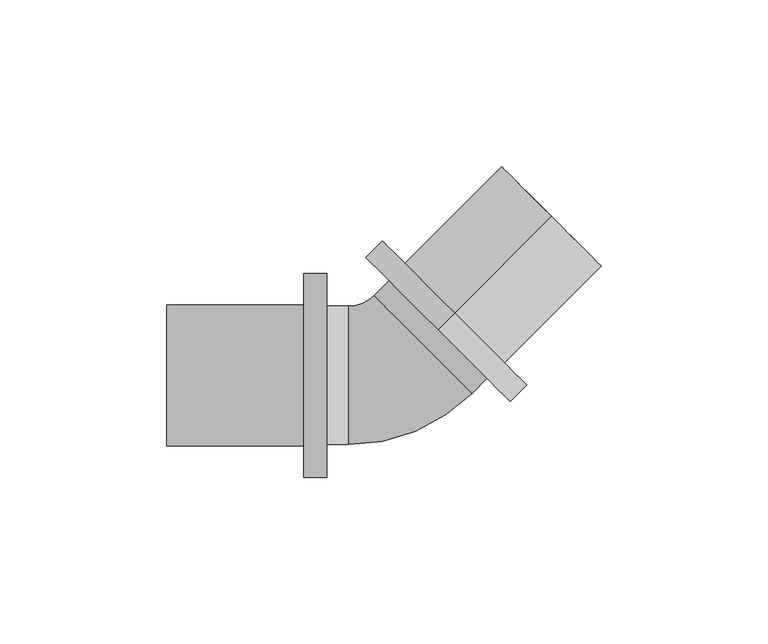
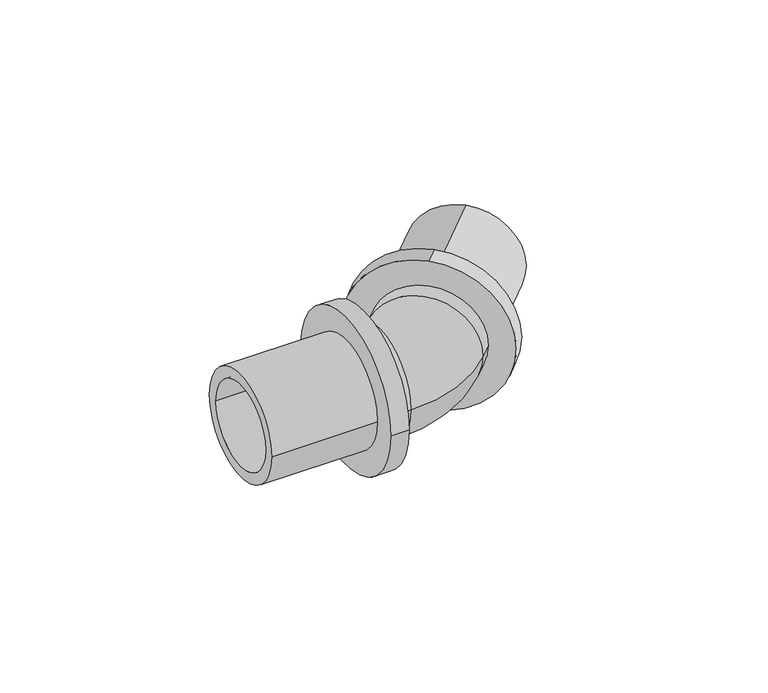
"""IFC4 building model written with IfcOpenShell, lengths in millimetres: pipe fitting geometry, RAUTITAN_Corner_RX+ stabil : RTI RX+ stabil C DE."""

import ifcopenshell
import ifcopenshell.guid

model = None  # the IFC model being written
_history = None  # IfcOwnerHistory: only IFC2X3 demands one
_inside = {}  # id of a spatial element -> (the spatial element, [elements in it])
_under = {}  # id of a project, library or spatial element -> (it, [spatial elements below it])
_declared = {}  # id of a project -> (the project, [libraries it declares])
_typed = {}  # id of a type object -> (the type object, [elements of that type])
_made_of = {}  # id of a material, layer set ... -> (it, [elements and type objects made of it])


def new_model(schema):
    """Start an empty IFC model of exactly this schema.

    Asked for "IFC4X3", IfcOpenShell would pick the latest addendum, in which some entities
    have other attributes; the version numbers below select the first issue.
    IFC2X3 requires an IfcOwnerHistory on every rooted entity: one is made here for all.
    """
    global model, _history
    if schema == "IFC4X3":
        model = ifcopenshell.file(schema_version=(4, 3, 0, 0))
    else:
        model = ifcopenshell.file(schema=schema)
    _inside.clear()
    _under.clear()
    _declared.clear()
    _typed.clear()
    _made_of.clear()
    _history = None
    if model.schema == "IFC2X3":
        org = make("IfcOrganization", Name="unknown")
        user = make(
            "IfcPersonAndOrganization",
            ThePerson=make("IfcPerson", FamilyName="unknown"),
            TheOrganization=org,
        )
        app = make(
            "IfcApplication",
            ApplicationDeveloper=org,
            Version="unknown",
            ApplicationFullName="unknown",
            ApplicationIdentifier="unknown",
        )
        _history = make(
            "IfcOwnerHistory",
            OwningUser=user,
            OwningApplication=app,
            ChangeAction="ADDED",
            CreationDate=0,
        )
    return model


def make(cls, **values):
    """One entity of the class cls with the attributes given. An attribute that is None is left unset."""
    return model.create_entity(
        cls, **{name: value for name, value in values.items() if value is not None}
    )


def rooted(cls, **values):
    """An entity with a GlobalId (a new one), such as an element, a storey or a relation."""
    return make(cls, GlobalId=ifcopenshell.guid.new(), OwnerHistory=_history, **values)


def si_unit(unit_type, name, prefix=None):
    """IfcSIUnit, for example si_unit("LENGTHUNIT", "METRE", prefix="MILLI")."""
    return make("IfcSIUnit", UnitType=unit_type, Prefix=prefix, Name=name)


def assignment(units):
    """IfcUnitAssignment: the units of a project."""
    return None if units is None else make("IfcUnitAssignment", Units=units)


def point(xyz):
    """IfcCartesianPoint."""
    return None if xyz is None else make("IfcCartesianPoint", Coordinates=xyz)


def direction(xyz):
    """IfcDirection."""
    return None if xyz is None else make("IfcDirection", DirectionRatios=xyz)


def frame(location, z_axis=None, x_axis=None):
    """IfcAxis2Placement3D, a coordinate frame: its origin and axes. An axis left out is left unset."""
    return make(
        "IfcAxis2Placement3D",
        Location=point(location),
        Axis=direction(z_axis),
        RefDirection=direction(x_axis),
    )


def origin():
    """The frame at (0, 0, 0) with its axes left unset."""
    return frame((0.0, 0.0, 0.0))


def place(relative_to, where):
    """IfcLocalPlacement: puts the frame where relative to a parent placement (None: the world)."""
    return make(
        "IfcLocalPlacement", PlacementRelTo=relative_to, RelativePlacement=where
    )


def context(
    kind, dimensions, precision=None, world=None, true_north=None, identifier=None
):
    """IfcGeometricRepresentationContext, for example the 3D "Model" context."""
    return make(
        "IfcGeometricRepresentationContext",
        ContextIdentifier=identifier,
        ContextType=kind,
        CoordinateSpaceDimension=dimensions,
        Precision=precision,
        WorldCoordinateSystem=world,
        TrueNorth=true_north,
    )


def project(units=None, contexts=None):
    """IfcProject with its units and contexts."""
    return rooted(
        "IfcProject",
        Name="project",
        RepresentationContexts=contexts,
        UnitsInContext=assignment(units),
    )


def spatial(cls, under=None, at=None, **own):
    """A site, building, storey or space (cls), placed at a placement, below another one or the project."""
    s = rooted(cls, ObjectPlacement=at, **own)
    if under is not None:
        _under.setdefault(under.id(), (under, []))[1].append(s)
    return s


def polyline(points):
    """IfcPolyline through the points."""
    return make("IfcPolyline", Points=[point(p) for p in points])


def circle_curve(where, radius):
    """IfcCircle in the frame where."""
    return make("IfcCircle", Position=where, Radius=radius)


def ellipse_curve(where, semi_axis1, semi_axis2):
    """IfcEllipse in the frame where."""
    return make(
        "IfcEllipse", Position=where, SemiAxis1=semi_axis1, SemiAxis2=semi_axis2
    )


def trimmed(basis, trim1, trim2, sense, master):
    """IfcTrimmedCurve: the piece of a basis curve between two trims."""
    return make(
        "IfcTrimmedCurve",
        BasisCurve=basis,
        Trim1=trim1,
        Trim2=trim2,
        SenseAgreement=sense,
        MasterRepresentation=master,
    )


def shape(context_of_items, identifier, shape_type, items):
    """IfcShapeRepresentation: the items that make up one representation, for example the "Body"."""
    return make(
        "IfcShapeRepresentation",
        ContextOfItems=context_of_items,
        RepresentationIdentifier=identifier,
        RepresentationType=shape_type,
        Items=items,
    )


def source(mapping_origin, context_of_items, identifier, shape_type, items):
    """IfcRepresentationMap: a shape defined once, which mapped items show again and again."""
    return make(
        "IfcRepresentationMap",
        MappingOrigin=mapping_origin,
        MappedRepresentation=shape(context_of_items, identifier, shape_type, items),
    )


def transform(
    local_origin,
    x_axis=None,
    y_axis=None,
    z_axis=None,
    scale=None,
    scale2=None,
    scale3=None,
    uniform=True,
):
    """IfcCartesianTransformationOperator3D, or its non-uniform kind. x_axis, y_axis, z_axis: its Axis1, 2, 3."""
    if uniform:
        return make(
            "IfcCartesianTransformationOperator3D",
            Axis1=direction(x_axis),
            Axis2=direction(y_axis),
            LocalOrigin=point(local_origin),
            Scale=scale,
            Axis3=direction(z_axis),
        )
    return make(
        "IfcCartesianTransformationOperator3DnonUniform",
        Axis1=direction(x_axis),
        Axis2=direction(y_axis),
        LocalOrigin=point(local_origin),
        Scale=scale,
        Axis3=direction(z_axis),
        Scale2=scale2,
        Scale3=scale3,
    )


def mapped(mapping_source, mapping_target):
    """IfcMappedItem: shows the shape of a source again, moved by a transform."""
    return make(
        "IfcMappedItem", MappingSource=mapping_source, MappingTarget=mapping_target
    )


def made_of(thing, what):
    """Note that an element or type object is made of a material, layer set ...; save() writes the relation."""
    if what is not None:
        _made_of.setdefault(what.id(), (what, []))[1].append(thing)
    return thing


def element(
    cls,
    number,
    at=None,
    inside=None,
    cuts=None,
    type_object=None,
    material=None,
    context=None,
    identifier="Body",
    shape_type=None,
    held_by="IfcProductDefinitionShape",
    body=None,
    shapes=None,
    **own,
):
    """One element of the class cls, such as IfcWall. Its Tag is "e" and its number.

    at: its placement. inside: the storey or other place that contains it. cuts: it is an
    opening in that element (IfcRelVoidsElement). A single representation is given by context,
    identifier, shape_type and body (its items); several are given by shapes. held_by: the class
    of the entity that holds the representations. save() writes the other relations.
    """
    e = rooted(cls, Tag="e%d" % number, ObjectPlacement=at, **own)
    if body is not None:
        shapes = [shape(context, identifier, shape_type, body)]
    if shapes is not None:
        e.Representation = make(held_by, Representations=shapes)
    if inside is not None:
        _inside.setdefault(inside.id(), (inside, []))[1].append(e)
    if cuts is not None:
        rooted(
            "IfcRelVoidsElement", RelatingBuildingElement=cuts, RelatedOpeningElement=e
        )
    if type_object is not None:
        _typed.setdefault(type_object.id(), (type_object, []))[1].append(e)
    return made_of(e, material)


def aggregate(whole, parts):
    """IfcRelAggregates: a whole, such as a stair, and the parts it consists of."""
    return rooted("IfcRelAggregates", RelatingObject=whole, RelatedObjects=parts)


def save(model, path):
    """Write the relations noted so far, then the file.

    IfcRelAggregates (storeys below a building ...), IfcRelContainedInSpatialStructure (elements
    in a storey), IfcRelDefinesByType, IfcRelAssociatesMaterial and IfcRelDeclares: one each for
    every whole, place, type object, material and project.
    """
    for whole, parts in _under.values():
        aggregate(whole, parts)
    for where, things in _inside.values():
        rooted(
            "IfcRelContainedInSpatialStructure",
            RelatedElements=things,
            RelatingStructure=where,
        )
    for kind, things in _typed.values():
        rooted("IfcRelDefinesByType", RelatedObjects=things, RelatingType=kind)
    for what, things in _made_of.values():
        rooted("IfcRelAssociatesMaterial", RelatedObjects=things, RelatingMaterial=what)
    for by, libraries in _declared.values():
        rooted("IfcRelDeclares", RelatingContext=by, RelatedDefinitions=libraries)
    model.write(path)


def plane_surface(at):
    """IfcPlane: the flat surface through the origin of the frame at, square to its z axis."""
    return make("IfcPlane", Position=at)


def cylinder_surface(at, radius):
    """IfcCylindricalSurface: all points at the distance radius from the z axis of the frame at."""
    return make("IfcCylindricalSurface", Position=at, Radius=radius)


def revolved_surface(curve, axis_point, axis_direction):
    """IfcSurfaceOfRevolution: the curve turned about the line through axis_point along axis_direction."""
    return make(
        "IfcSurfaceOfRevolution",
        SweptCurve=make("IfcArbitraryOpenProfileDef", ProfileType="CURVE", Curve=curve),
        AxisPosition=make("IfcAxis1Placement", Location=point(axis_point), Axis=direction(axis_direction)),
    )


def advanced_brep(points, edges, surfaces, faces):
    """IfcAdvancedBrep: a solid bounded by faces that lie on surfaces and meet in shared edges.

    An edge is (start, end): straight between two places in points (the first is 0);
    or (start, end, curve); or (start, end, curve, False) where it runs against its curve.
    A face is (place in surfaces, loops), or (place, loops, False) where it looks against
    its surface's normal. A loop lists edges by number (the first is 1), with a minus sign
    where the edge is run from its end to its start. The first loop is the outer one.
    """
    corners = [point(p) for p in points]
    vertices = [make("IfcVertexPoint", VertexGeometry=c) for c in corners]
    made = []
    for start, end, *more in edges:
        made.append(
            make(
                "IfcEdgeCurve",
                EdgeStart=vertices[start],
                EdgeEnd=vertices[end],
                EdgeGeometry=more[0] if more else make("IfcPolyline", Points=[corners[start], corners[end]]),
                SameSense=more[1] if len(more) > 1 else True,
            )
        )
    hull = []
    for where, loops, *sense in faces:
        bounds = []
        for j, loop in enumerate(loops):
            ring = [make("IfcOrientedEdge", EdgeElement=made[abs(k) - 1], Orientation=k > 0) for k in loop]
            bounds.append(
                make(
                    "IfcFaceOuterBound" if j == 0 else "IfcFaceBound",
                    Bound=make("IfcEdgeLoop", EdgeList=ring),
                    Orientation=True,
                )
            )
        hull.append(make("IfcAdvancedFace", Bounds=bounds, FaceSurface=surfaces[where], SameSense=sense[0] if sense else True))
    return make("IfcAdvancedBrep", Outer=make("IfcClosedShell", CfsFaces=hull))


def pipe_fitting_43d15cd9(model_context):
    return source(origin(), model_context, "Body", "AdvancedBrep", [
        advanced_brep(
        [(-19.5, 20.75, 0.0), (-19.5, -20.75, 0.0), (-19.5, 16.75, 0.0), (-19.5, -16.75, 0.0), (-13.1512806, -16.75, 0.0), (-13.1512806, 16.75, 0.0), (-13.1512806, -20.75, 0.0), (-13.1512806, 20.75, 0.0), (28.4610479, -0.8838835, 0.0), (-0.8838835, 28.4610479, 0.0), (25.6326208, 1.9445436, 0.0), (1.9445436, 25.6326208, 0.0), (-2.5446789, 21.1433983, 0.0), (21.1433983, -2.5446789, 0.0), (-5.373106, 23.9718254, 0.0), (23.9718254, -5.373106, 0.0)],
        [
            (0, 1, circle_curve(frame((-19.5, 0.0, 0.0), z_axis=(-1.0, 0.0, 0.0), x_axis=(0.0, -1.0, 0.0)), 20.75)),
            (1, 0, circle_curve(frame((-19.5, 0.0, 0.0), z_axis=(-1.0, 0.0, 0.0), x_axis=(0.0, -1.0, 0.0)), 20.75)),
            (2, 3, circle_curve(frame((-19.5, 0.0, 0.0), z_axis=(1.0, 0.0, 0.0), x_axis=(0.0, -1.0, 0.0)), 16.75)),
            (3, 2, circle_curve(frame((-19.5, 0.0, 0.0), z_axis=(1.0, 0.0, 0.0), x_axis=(0.0, -1.0, 0.0)), 16.75)),
            (3, 4),
            (4, 5, circle_curve(frame((-13.1512806, 0.0, 0.0), z_axis=(1.0, 0.0, 0.0), x_axis=(0.0, -1.0, 0.0)), 16.75)),
            (5, 2),
            (5, 4, circle_curve(frame((-13.1512806, 0.0, 0.0), z_axis=(1.0, 0.0, 0.0), x_axis=(0.0, -1.0, 0.0)), 16.75)),
            (1, 6),
            (6, 7, circle_curve(frame((-13.1512806, 0.0, 0.0), z_axis=(-1.0, 0.0, 0.0), x_axis=(0.0, -1.0, 0.0)), 20.75)),
            (7, 0),
            (7, 6, circle_curve(frame((-13.1512806, 0.0, 0.0), z_axis=(-1.0, 0.0, 0.0), x_axis=(0.0, -1.0, 0.0)), 20.75)),
            (8, 9, circle_curve(frame((13.7885822, 13.7885822, 0.0), z_axis=(0.7071067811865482, 0.7071067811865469, 0.0), x_axis=(-0.7071067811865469, 0.7071067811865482, 0.0)), 20.75)),
            (9, 8, circle_curve(frame((13.7885822, 13.7885822, 0.0), z_axis=(0.7071067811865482, 0.7071067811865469, 0.0), x_axis=(-0.7071067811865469, 0.7071067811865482, 0.0)), 20.75)),
            (10, 11, circle_curve(frame((13.7885822, 13.7885822, 0.0), z_axis=(-0.7071067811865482, -0.7071067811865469, 0.0), x_axis=(-0.7071067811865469, 0.7071067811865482, 0.0)), 16.75)),
            (11, 10, circle_curve(frame((13.7885822, 13.7885822, 0.0), z_axis=(-0.7071067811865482, -0.7071067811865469, 0.0), x_axis=(-0.7071067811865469, 0.7071067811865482, 0.0)), 16.75)),
            (11, 12),
            (12, 13, circle_curve(frame((9.2993597, 9.2993597, 0.0), z_axis=(-0.7071067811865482, -0.7071067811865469, 0.0), x_axis=(-0.7071067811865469, 0.7071067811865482, 0.0)), 16.75)),
            (13, 10),
            (13, 12, circle_curve(frame((9.2993597, 9.2993597, 0.0), z_axis=(-0.7071067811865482, -0.7071067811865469, 0.0), x_axis=(-0.7071067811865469, 0.7071067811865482, 0.0)), 16.75)),
            (9, 14),
            (14, 15, circle_curve(frame((9.2993597, 9.2993597, 0.0), z_axis=(0.7071067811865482, 0.7071067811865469, 0.0), x_axis=(-0.7071067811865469, 0.7071067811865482, 0.0)), 20.75)),
            (15, 8),
            (15, 14, circle_curve(frame((9.2993597, 9.2993597, 0.0), z_axis=(0.7071067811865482, 0.7071067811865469, 0.0), x_axis=(-0.7071067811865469, 0.7071067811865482, 0.0)), 20.75)),
            (12, 5, circle_curve(frame((-13.1512806, 31.75, 0.0), z_axis=(0.0, 0.0, -1.0), x_axis=(0.0, -1.0, 0.0)), 15.0)),
            (4, 13, circle_curve(frame((-13.1512806, 31.75, 0.0), z_axis=(0.0, 0.0, 1.0), x_axis=(0.0, -1.0, 0.0)), 48.5)),
            (14, 7, circle_curve(frame((-13.1512806, 31.75, 0.0), z_axis=(0.0, 0.0, -1.0), x_axis=(0.0, -1.0, 0.0)), 11.0)),
            (6, 15, circle_curve(frame((-13.1512806, 31.75, 0.0), z_axis=(0.0, 0.0, 1.0), x_axis=(0.0, -1.0, 0.0)), 52.5)),
        ],
        [
            plane_surface(frame((-19.5, 0.0, 0.0), z_axis=(-1.0, 0.0, 0.0), x_axis=(0.0, 0.0, 1.0))),
            revolved_surface(polyline([(-19.5, -16.75, 0.0), (-13.1512806, -16.75, 0.0)]), (-13.1512806, 0.0, 0.0), (-1.0, 0.0, 0.0)),
            cylinder_surface(frame((-13.1512806, 0.0, 0.0), z_axis=(1.0, 0.0, 0.0), x_axis=(0.0, -1.0, 0.0)), 20.75),
            plane_surface(frame((13.7885822, 13.7885822, 0.0), z_axis=(0.7071067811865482, 0.7071067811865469, 0.0), x_axis=(0.0, 0.0, 1.0))),
            revolved_surface(polyline([(1.9445436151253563, 25.632620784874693, 0.0), (-2.544678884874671, 21.143398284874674, 0.0)]), (9.2993597, 9.2993597, 0.0), (0.7071067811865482, 0.7071067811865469, 0.0)),
            cylinder_surface(frame((9.2993597, 9.2993597, 0.0), z_axis=(-0.7071067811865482, -0.7071067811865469, 0.0), x_axis=(-0.7071067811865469, 0.7071067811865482, 0.0)), 20.75),
            revolved_surface(trimmed(ellipse_curve(frame((-13.1512806, 0.0, 0.0), z_axis=(1.0, 0.0, 0.0), x_axis=(0.0, 1.0, 0.0)), 16.75, 16.75), [point((-13.1512806, -16.75, 0.0))], [point((-13.1512806, 16.75, 0.0))], True, "CARTESIAN"), (-13.1512806, 31.75, 0.0), (0.0, 0.0, 1.0)),
            revolved_surface(trimmed(ellipse_curve(frame((-13.1512806, 0.0, 0.0), z_axis=(1.0, 0.0, 0.0), x_axis=(0.0, 1.0, 0.0)), 16.75, 16.75), [point((-13.1512806, 16.75, 0.0))], [point((-13.1512806, -16.75, 0.0))], True, "CARTESIAN"), (-13.1512806, 31.75, 0.0), (0.0, 0.0, 1.0)),
            revolved_surface(trimmed(ellipse_curve(frame((-13.1512806, 0.0, 0.0), z_axis=(-1.0, 0.0, 0.0), x_axis=(0.0, 1.0, 0.0)), 20.75, 20.75), [point((-13.1512806, -20.75, 0.0))], [point((-13.1512806, 20.75, 0.0))], True, "CARTESIAN"), (-13.1512806, 31.75, 0.0), (0.0, 0.0, 1.0)),
            revolved_surface(trimmed(ellipse_curve(frame((-13.1512806, 0.0, 0.0), z_axis=(-1.0, 0.0, 0.0), x_axis=(0.0, 1.0, 0.0)), 20.75, 20.75), [point((-13.1512806, 20.75, 0.0))], [point((-13.1512806, -20.75, 0.0))], True, "CARTESIAN"), (-13.1512806, 31.75, 0.0), (0.0, 0.0, 1.0)),
        ],
        [
            (0, [[1, 2], [3, 4]]),
            (1, [[-4, 5, 6, 7]]),
            (1, [[-3, -7, 8, -5]]),
            (2, [[-2, 9, 10, 11]]),
            (2, [[-1, -11, 12, -9]]),
            (3, [[13, 14], [15, 16]]),
            (4, [[-16, 17, 18, 19]]),
            (4, [[-15, -19, 20, -17]]),
            (5, [[-14, 21, 22, 23]]),
            (5, [[-13, -23, 24, -21]]),
            (6, [[25, -6, 26, -18]]),
            (7, [[-25, -20, -26, -8]]),
            (8, [[27, -10, 28, -22]]),
            (9, [[-27, -24, -28, -12]]),
        ],
    ),
        advanced_brep(
        [(-26.5, -30.55, 0.0), (-26.5, 30.55, 0.0), (-19.5, 30.55, 0.0), (-19.5, -30.55, 0.0), (-67.5, -21.15, 0.0), (-67.5, 21.15, 0.0), (-26.5, 21.15, 0.0), (-26.5, -21.15, 0.0), (-19.5, -16.75, 0.0), (-19.5, 16.75, 0.0), (-67.5, 16.75, 0.0), (-67.5, -16.75, 0.0)],
        [
            (0, 1, circle_curve(frame((-26.5, 0.0, 0.0), z_axis=(1.0, 0.0, 0.0), x_axis=(0.0, 1.0, 0.0)), 30.55)),
            (1, 2),
            (2, 3, circle_curve(frame((-19.5, 0.0, 0.0), z_axis=(-1.0, 0.0, 0.0), x_axis=(0.0, 1.0, 0.0)), 30.55)),
            (3, 0),
            (4, 5, circle_curve(frame((-67.5, 0.0, 0.0), z_axis=(1.0, 0.0, 0.0), x_axis=(0.0, 1.0, 0.0)), 21.15)),
            (5, 6),
            (6, 7, circle_curve(frame((-26.5, 0.0, 0.0), z_axis=(-1.0, 0.0, 0.0), x_axis=(0.0, 1.0, 0.0)), 21.15)),
            (7, 4),
            (8, 9, circle_curve(frame((-19.5, 0.0, 0.0), z_axis=(1.0, 0.0, 0.0), x_axis=(0.0, 1.0, 0.0)), 16.75)),
            (9, 10),
            (10, 11, circle_curve(frame((-67.5, 0.0, 0.0), z_axis=(-1.0, 0.0, 0.0), x_axis=(0.0, 1.0, 0.0)), 16.75)),
            (11, 8),
            (1, 0, circle_curve(frame((-26.5, 0.0, 0.0), z_axis=(1.0, 0.0, 0.0), x_axis=(0.0, -1.0, 0.0)), 30.55)),
            (3, 2, circle_curve(frame((-19.5, 0.0, 0.0), z_axis=(-1.0, 0.0, 0.0), x_axis=(0.0, -1.0, 0.0)), 30.55)),
            (6, 7, circle_curve(frame((-26.5, 0.0, 0.0), z_axis=(1.0, 0.0, 0.0), x_axis=(0.0, -1.0, 0.0)), 21.15)),
            (5, 4, circle_curve(frame((-67.5, 0.0, 0.0), z_axis=(1.0, 0.0, 0.0), x_axis=(0.0, -1.0, 0.0)), 21.15)),
            (10, 11, circle_curve(frame((-67.5, 0.0, 0.0), z_axis=(1.0, 0.0, 0.0), x_axis=(0.0, -1.0, 0.0)), 16.75)),
            (9, 8, circle_curve(frame((-19.5, 0.0, 0.0), z_axis=(1.0, 0.0, 0.0), x_axis=(0.0, -1.0, 0.0)), 16.75)),
        ],
        [
            cylinder_surface(frame((-19.5, 0.0, 0.0), z_axis=(-1.0, 0.0, 0.0), x_axis=(0.0, 1.0, 0.0)), 30.55),
            cylinder_surface(frame((-19.5, 0.0, 0.0), z_axis=(-1.0, 0.0, 0.0), x_axis=(0.0, 1.0, 0.0)), 21.15),
            revolved_surface(polyline([(-67.5, 16.75, 0.0), (-19.5, 16.75, 0.0)]), (-19.5, 0.0, 0.0), (-1.0, 0.0, 0.0)),
            cylinder_surface(frame((-19.5, 0.0, 0.0), z_axis=(-1.0, 0.0, 0.0), x_axis=(0.0, -1.0, 0.0)), 30.55),
            plane_surface(frame((-26.5, 0.0, 0.0), z_axis=(-1.0, 0.0, 0.0), x_axis=(0.0, -1.0, 0.0))),
            cylinder_surface(frame((-19.5, 0.0, 0.0), z_axis=(-1.0, 0.0, 0.0), x_axis=(0.0, -1.0, 0.0)), 21.15),
            plane_surface(frame((-67.5, 0.0, 0.0), z_axis=(-1.0, 0.0, 0.0), x_axis=(0.0, -1.0, 0.0))),
            revolved_surface(polyline([(-67.5, -16.75, 0.0), (-19.5, -16.75, 0.0)]), (-19.5, 0.0, 0.0), (-1.0, 0.0, 0.0)),
            plane_surface(frame((-19.5, 0.0, 0.0), z_axis=(1.0, 0.0, 0.0), x_axis=(0.0, -1.0, 0.0))),
        ],
        [
            (0, [[1, 2, 3, 4]]),
            (1, [[5, 6, 7, 8]]),
            (2, [[9, 10, 11, 12]]),
            (3, [[13, -4, 14, -2]]),
            (4, [[-13, -1], [15, -7]]),
            (5, [[16, -8, -15, -6]]),
            (6, [[-16, -5], [17, -11]]),
            (7, [[18, -12, -17, -10]]),
            (8, [[-14, -3], [-18, -9]]),
        ],
    ),
        advanced_brep(
        [(18.7383297, 18.7383297, 30.9749044), (18.7383297, 18.7383297, -30.1250956), (13.7885822, 13.7885822, -30.1250956), (13.7885822, 13.7885822, 30.9749044), (47.7297077, 47.7297077, 21.5749044), (47.7297077, 47.7297077, -20.7250956), (18.7383297, 18.7383297, -20.7250956), (18.7383297, 18.7383297, 21.5749044), (13.7885822, 13.7885822, 17.1749044), (13.7885822, 13.7885822, -16.3250956), (47.7297077, 47.7297077, -16.3250956), (47.7297077, 47.7297077, 17.1749044)],
        [
            (0, 1, circle_curve(frame((18.7383297, 18.7383297, 0.4249044), z_axis=(-0.7071067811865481, -0.707106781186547, 0.0), x_axis=(0.0, 0.0, -1.0)), 30.55)),
            (1, 2),
            (2, 3, circle_curve(frame((13.7885822, 13.7885822, 0.4249044), z_axis=(0.7071067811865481, 0.707106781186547, 0.0), x_axis=(0.0, 0.0, -1.0)), 30.55)),
            (3, 0),
            (4, 5, circle_curve(frame((47.7297077, 47.7297077, 0.4249044), z_axis=(-0.7071067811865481, -0.707106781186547, 0.0), x_axis=(0.0, 0.0, -1.0)), 21.15)),
            (5, 6),
            (6, 7, circle_curve(frame((18.7383297, 18.7383297, 0.4249044), z_axis=(0.7071067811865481, 0.707106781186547, 0.0), x_axis=(0.0, 0.0, -1.0)), 21.15)),
            (7, 4),
            (8, 9, circle_curve(frame((13.7885822, 13.7885822, 0.4249044), z_axis=(-0.7071067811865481, -0.707106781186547, 0.0), x_axis=(0.0, 0.0, -1.0)), 16.75)),
            (9, 10),
            (10, 11, circle_curve(frame((47.7297077, 47.7297077, 0.4249044), z_axis=(0.7071067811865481, 0.707106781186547, 0.0), x_axis=(0.0, 0.0, -1.0)), 16.75)),
            (11, 8),
            (1, 0, circle_curve(frame((18.7383297, 18.7383297, 0.4249044), z_axis=(-0.7071067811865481, -0.707106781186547, 0.0), x_axis=(0.0, 0.0, 1.0)), 30.55)),
            (3, 2, circle_curve(frame((13.7885822, 13.7885822, 0.4249044), z_axis=(0.7071067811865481, 0.707106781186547, 0.0), x_axis=(0.0, 0.0, 1.0)), 30.55)),
            (6, 7, circle_curve(frame((18.7383297, 18.7383297, 0.4249044), z_axis=(-0.7071067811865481, -0.707106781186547, 0.0), x_axis=(0.0, 0.0, 1.0)), 21.15)),
            (5, 4, circle_curve(frame((47.7297077, 47.7297077, 0.4249044), z_axis=(-0.7071067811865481, -0.707106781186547, 0.0), x_axis=(0.0, 0.0, 1.0)), 21.15)),
            (10, 11, circle_curve(frame((47.7297077, 47.7297077, 0.4249044), z_axis=(-0.7071067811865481, -0.707106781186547, 0.0), x_axis=(0.0, 0.0, 1.0)), 16.75)),
            (9, 8, circle_curve(frame((13.7885822, 13.7885822, 0.4249044), z_axis=(-0.7071067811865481, -0.707106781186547, 0.0), x_axis=(0.0, 0.0, 1.0)), 16.75)),
        ],
        [
            cylinder_surface(frame((13.7885822, 13.7885822, 0.4249044), z_axis=(0.7071067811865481, 0.707106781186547, 0.0), x_axis=(0.0, 0.0, -1.0)), 30.55),
            cylinder_surface(frame((13.7885822, 13.7885822, 0.4249044), z_axis=(0.7071067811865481, 0.707106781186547, 0.0), x_axis=(0.0, 0.0, -1.0)), 21.15),
            revolved_surface(polyline([(47.72970770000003, 47.72970769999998, -16.3250956), (13.7885822, 13.7885822, -16.3250956)]), (13.7885822, 13.7885822, 0.4249044), (0.7071067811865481, 0.707106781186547, 0.0)),
            cylinder_surface(frame((13.7885822, 13.7885822, 0.4249044), z_axis=(0.7071067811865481, 0.707106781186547, 0.0), x_axis=(0.0, 0.0, 1.0)), 30.55),
            plane_surface(frame((18.7383297, 18.7383297, 0.4249044), z_axis=(0.7071067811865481, 0.707106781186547, 0.0), x_axis=(0.0, 0.0, 1.0))),
            cylinder_surface(frame((13.7885822, 13.7885822, 0.4249044), z_axis=(0.7071067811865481, 0.707106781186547, 0.0), x_axis=(0.0, 0.0, 1.0)), 21.15),
            plane_surface(frame((47.7297077, 47.7297077, 0.4249044), z_axis=(0.7071067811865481, 0.707106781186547, 0.0), x_axis=(0.0, 0.0, 1.0))),
            revolved_surface(polyline([(47.72970770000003, 47.72970769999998, 17.1749044), (13.7885822, 13.7885822, 17.1749044)]), (13.7885822, 13.7885822, 0.4249044), (0.7071067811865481, 0.707106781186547, 0.0)),
            plane_surface(frame((13.7885822, 13.7885822, 0.4249044), z_axis=(-0.7071067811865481, -0.707106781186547, 0.0), x_axis=(0.0, 0.0, 1.0))),
        ],
        [
            (0, [[1, 2, 3, 4]]),
            (1, [[5, 6, 7, 8]]),
            (2, [[9, 10, 11, 12]]),
            (3, [[13, -4, 14, -2]]),
            (4, [[-13, -1], [15, -7]]),
            (5, [[16, -8, -15, -6]]),
            (6, [[-16, -5], [17, -11]]),
            (7, [[18, -12, -17, -10]]),
            (8, [[-14, -3], [-18, -9]]),
        ],
    ),
    ])


if __name__ == "__main__":
    model = new_model("IFC4")
    model_context = context("Model", 3, world=origin())
    ifc_project = project(units=[si_unit("LENGTHUNIT", "METRE", prefix="MILLI")], contexts=[model_context])
    site = spatial("IfcSite", under=ifc_project)
    building = spatial("IfcBuilding", under=site)
    placement = place(None, origin())
    pipe_fitting_shape = pipe_fitting_43d15cd9(model_context)
    element("IfcPipeFitting", 1, ObjectType="RAUTITAN_Corner_RX+ stabil : RTI RX+ stabil C DE", at=placement, inside=building, context=model_context, shape_type="MappedRepresentation", body=[
        mapped(pipe_fitting_shape, transform((0.0, 0.0, 0.0), x_axis=(1.0, 0.0, 0.0), y_axis=(0.0, 1.0, 0.0), z_axis=(0.0, 0.0, 1.0))),
    ])
    save(model, "model.ifc")
